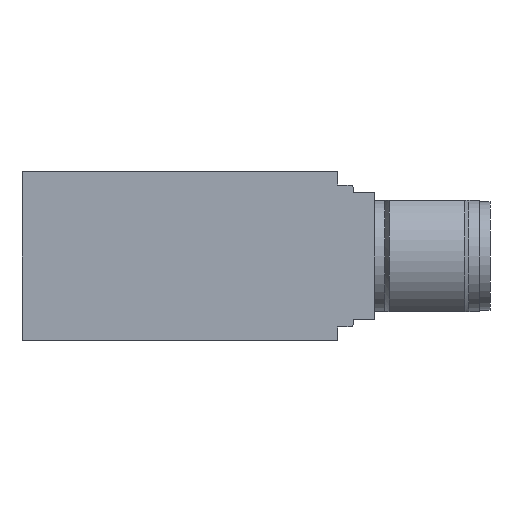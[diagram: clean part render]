
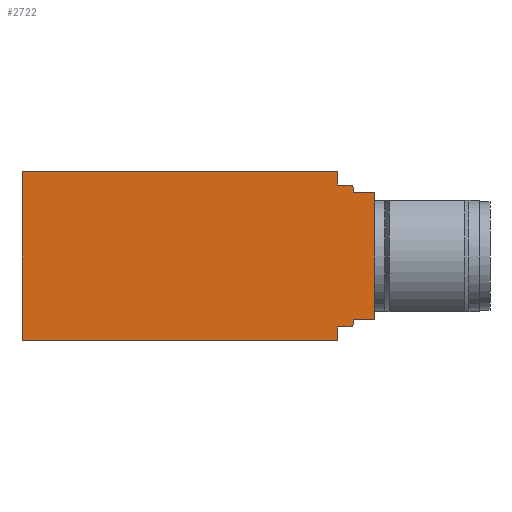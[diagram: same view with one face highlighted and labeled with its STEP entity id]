
A CAD part, front view. The second image highlights one B-rep face of the part: STEP entity #2722.
In plain terms, the highlighted planar face has unit normal (0, -1, 0) as drawn and (0, 0, -1) by its records, which use the part's own axes.
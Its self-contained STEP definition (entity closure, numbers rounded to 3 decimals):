
#303=PLANE('',#3031);
#416=LINE('',#4512,#570);
#424=LINE('',#4527,#578);
#456=LINE('',#4630,#610);
#472=LINE('',#4675,#626);
#488=LINE('',#4708,#642);
#489=LINE('',#4711,#643);
#490=LINE('',#4715,#644);
#491=LINE('',#4717,#645);
#492=LINE('',#4719,#646);
#493=LINE('',#4721,#647);
#494=LINE('',#4723,#648);
#495=LINE('',#4726,#649);
#570=VECTOR('',#3574,1.25);
#578=VECTOR('',#3582,1.25);
#610=VECTOR('',#3686,30.);
#626=VECTOR('',#3730,16.);
#642=VECTOR('',#3768,30.);
#643=VECTOR('',#3771,1.2);
#644=VECTOR('',#3774,0.45);
#645=VECTOR('',#3775,2.);
#646=VECTOR('',#3776,12.);
#647=VECTOR('',#3777,2.);
#648=VECTOR('',#3778,0.45);
#649=VECTOR('',#3781,1.2);
#816=FACE_OUTER_BOUND('',#1025,.T.);
#1025=EDGE_LOOP('',(#2458,#2459,#2460,#2461,#2462,#2463,#2464,#2465,#2466,
#2467,#2468,#2469,#2470,#2471));
#1175=CIRCLE('',#3032,0.3);
#1176=CIRCLE('',#3033,0.3);
#1343=VERTEX_POINT('',#4504);
#1346=VERTEX_POINT('',#4509);
#1347=VERTEX_POINT('',#4511);
#1354=VERTEX_POINT('',#4525);
#1389=VERTEX_POINT('',#4628);
#1404=VERTEX_POINT('',#4673);
#1411=VERTEX_POINT('',#4710);
#1412=VERTEX_POINT('',#4712);
#1413=VERTEX_POINT('',#4714);
#1414=VERTEX_POINT('',#4716);
#1415=VERTEX_POINT('',#4718);
#1416=VERTEX_POINT('',#4720);
#1417=VERTEX_POINT('',#4722);
#1418=VERTEX_POINT('',#4724);
#1670=EDGE_CURVE('',#1347,#1346,#416,.T.);
#1678=EDGE_CURVE('',#1343,#1354,#424,.T.);
#1727=EDGE_CURVE('',#1354,#1389,#456,.T.);
#1749=EDGE_CURVE('',#1404,#1389,#472,.T.);
#1766=EDGE_CURVE('',#1404,#1347,#488,.T.);
#1767=EDGE_CURVE('',#1346,#1411,#489,.T.);
#1768=EDGE_CURVE('',#1411,#1412,#1175,.T.);
#1769=EDGE_CURVE('',#1412,#1413,#490,.T.);
#1770=EDGE_CURVE('',#1413,#1414,#491,.T.);
#1771=EDGE_CURVE('',#1415,#1414,#492,.T.);
#1772=EDGE_CURVE('',#1416,#1415,#493,.T.);
#1773=EDGE_CURVE('',#1417,#1416,#494,.T.);
#1774=EDGE_CURVE('',#1418,#1417,#1176,.T.);
#1775=EDGE_CURVE('',#1343,#1418,#495,.T.);
#2458=ORIENTED_EDGE('',*,*,#1767,.T.);
#2459=ORIENTED_EDGE('',*,*,#1768,.T.);
#2460=ORIENTED_EDGE('',*,*,#1769,.T.);
#2461=ORIENTED_EDGE('',*,*,#1770,.T.);
#2462=ORIENTED_EDGE('',*,*,#1771,.F.);
#2463=ORIENTED_EDGE('',*,*,#1772,.F.);
#2464=ORIENTED_EDGE('',*,*,#1773,.F.);
#2465=ORIENTED_EDGE('',*,*,#1774,.F.);
#2466=ORIENTED_EDGE('',*,*,#1775,.F.);
#2467=ORIENTED_EDGE('',*,*,#1678,.T.);
#2468=ORIENTED_EDGE('',*,*,#1727,.T.);
#2469=ORIENTED_EDGE('',*,*,#1749,.F.);
#2470=ORIENTED_EDGE('',*,*,#1766,.T.);
#2471=ORIENTED_EDGE('',*,*,#1670,.T.);
#2722=ADVANCED_FACE('',(#816),#303,.F.);
#3031=AXIS2_PLACEMENT_3D('',#4709,#3769,#3770);
#3032=AXIS2_PLACEMENT_3D('',#4713,#3772,#3773);
#3033=AXIS2_PLACEMENT_3D('',#4725,#3779,#3780);
#3574=DIRECTION('',(0.,-1.,0.));
#3582=DIRECTION('',(0.,-1.,0.));
#3686=DIRECTION('',(-1.,0.,0.));
#3730=DIRECTION('',(0.,-1.,0.));
#3768=DIRECTION('',(1.,0.,0.));
#3769=DIRECTION('center_axis',(0.,0.,1.));
#3770=DIRECTION('ref_axis',(1.,0.,0.));
#3771=DIRECTION('',(1.,0.,0.));
#3772=DIRECTION('center_axis',(0.,0.,-1.));
#3773=DIRECTION('ref_axis',(0.707,0.707,0.));
#3774=DIRECTION('',(0.,-1.,0.));
#3775=DIRECTION('',(1.,0.,0.));
#3776=DIRECTION('',(0.,1.,0.));
#3777=DIRECTION('',(1.,0.,0.));
#3778=DIRECTION('',(0.,1.,0.));
#3779=DIRECTION('center_axis',(0.,0.,1.));
#3780=DIRECTION('ref_axis',(0.707,-0.707,0.));
#3781=DIRECTION('',(1.,0.,0.));
#4504=CARTESIAN_POINT('',(15.,-14.75,-43.));
#4509=CARTESIAN_POINT('',(15.,-1.25,-43.));
#4511=CARTESIAN_POINT('',(15.,0.,-43.));
#4512=CARTESIAN_POINT('',(15.,0.,-43.));
#4525=CARTESIAN_POINT('',(15.,-16.,-43.));
#4527=CARTESIAN_POINT('',(15.,-14.75,-43.));
#4628=CARTESIAN_POINT('',(-15.,-16.,-43.));
#4630=CARTESIAN_POINT('',(15.,-16.,-43.));
#4673=CARTESIAN_POINT('',(-15.,0.,-43.));
#4675=CARTESIAN_POINT('',(-15.,0.,-43.));
#4708=CARTESIAN_POINT('',(-15.,0.,-43.));
#4709=CARTESIAN_POINT('Origin',(1.75,-16.,-43.));
#4710=CARTESIAN_POINT('',(16.2,-1.25,-43.));
#4711=CARTESIAN_POINT('',(15.,-1.25,-43.));
#4712=CARTESIAN_POINT('',(16.5,-1.55,-43.));
#4713=CARTESIAN_POINT('Origin',(16.2,-1.55,-43.));
#4714=CARTESIAN_POINT('',(16.5,-2.,-43.));
#4715=CARTESIAN_POINT('',(16.5,-1.55,-43.));
#4716=CARTESIAN_POINT('',(18.5,-2.,-43.));
#4717=CARTESIAN_POINT('',(16.5,-2.,-43.));
#4718=CARTESIAN_POINT('',(18.5,-14.,-43.));
#4719=CARTESIAN_POINT('',(18.5,-14.,-43.));
#4720=CARTESIAN_POINT('',(16.5,-14.,-43.));
#4721=CARTESIAN_POINT('',(16.5,-14.,-43.));
#4722=CARTESIAN_POINT('',(16.5,-14.45,-43.));
#4723=CARTESIAN_POINT('',(16.5,-14.45,-43.));
#4724=CARTESIAN_POINT('',(16.2,-14.75,-43.));
#4725=CARTESIAN_POINT('Origin',(16.2,-14.45,-43.));
#4726=CARTESIAN_POINT('',(15.,-14.75,-43.));
